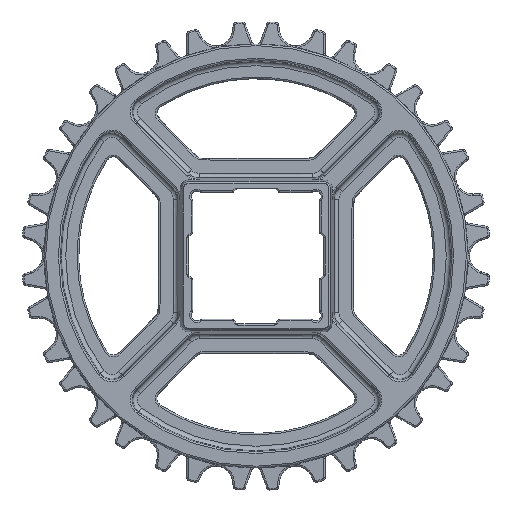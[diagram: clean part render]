
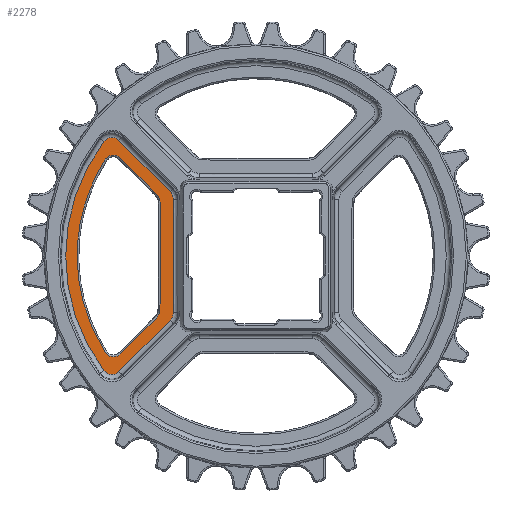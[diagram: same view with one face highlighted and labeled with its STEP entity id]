
A CAD part, top view. The second image highlights one B-rep face of the part: STEP entity #2278.
In plain terms, the highlighted planar face has unit normal (0, 0, 1).
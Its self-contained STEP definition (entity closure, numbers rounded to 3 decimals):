
#1999=PLANE('',#21089);
#2278=ADVANCED_FACE('',(#5031,#5032),#1999,.F.);
#4159=CIRCLE('',#21086,3.147);
#4160=CIRCLE('',#21087,60.497);
#4161=CIRCLE('',#21088,3.147);
#5031=FACE_BOUND('',#5144,.T.);
#5032=FACE_BOUND('',#5145,.T.);
#5144=EDGE_LOOP('',(#8125));
#5145=EDGE_LOOP('',(#8126,#8127,#8128,#8129,#8130,#8131,#8132,#8133));
#7557=B_SPLINE_CURVE_WITH_KNOTS('',3,(#34003,#34004,#34005,#34006,#34007,
#34008,#34009,#34010,#34011,#34012,#34013,#34014,#34015,#34016,#34017,#34018,
#34019,#34020,#34021,#34022,#34023,#34024,#34025,#34026,#34027,#34028,#34029,
#34030,#34031,#34032,#34033,#34034,#34035,#34036,#34037,#34038,#34039,#34040,
#34041,#34042,#34043,#34044,#34045,#34046,#34047,#34048,#34049,#34050),
 .UNSPECIFIED.,.T.,.F.,(2,2,2,2,2,2,2,2,2,2,2,1,1,1,2,2,2,1,1,1,2,2,2,1,
1,2,2,2,2,2),(-0.016,0.,0.125,0.25,
0.375,0.406,0.422,0.438,
0.453,0.469,0.477,0.484,
0.5,0.563,0.578,0.594,
0.609,0.625,0.75,0.813,0.828,
0.844,0.859,0.875,0.938,
0.953,0.969,0.984,1.,1.125),
 .UNSPECIFIED.);
#7558=B_SPLINE_CURVE_WITH_KNOTS('',3,(#34063,#34064,#34065,#34066),
 .UNSPECIFIED.,.F.,.F.,(4,4),(0.,1.),.UNSPECIFIED.);
#7559=B_SPLINE_CURVE_WITH_KNOTS('',3,(#34068,#34069,#34070,#34071,#34072,
#34073,#34074,#34075,#34076,#34077),.UNSPECIFIED.,.F.,.F.,(4,3,3,4),(0.,
0.084,0.418,1.),.UNSPECIFIED.);
#7560=B_SPLINE_CURVE_WITH_KNOTS('',3,(#34079,#34080,#34081,#34082),
 .UNSPECIFIED.,.F.,.F.,(4,4),(0.,1.),.UNSPECIFIED.);
#8125=ORIENTED_EDGE('',*,*,#16157,.T.);
#8126=ORIENTED_EDGE('',*,*,#16158,.T.);
#8127=ORIENTED_EDGE('',*,*,#16159,.T.);
#8128=ORIENTED_EDGE('',*,*,#16160,.T.);
#8129=ORIENTED_EDGE('',*,*,#16161,.T.);
#8130=ORIENTED_EDGE('',*,*,#16162,.T.);
#8131=ORIENTED_EDGE('',*,*,#16163,.T.);
#8132=ORIENTED_EDGE('',*,*,#16164,.T.);
#8133=ORIENTED_EDGE('',*,*,#16165,.T.);
#14311=VERTEX_POINT('',#34051);
#14312=VERTEX_POINT('',#34053);
#14313=VERTEX_POINT('',#34054);
#14314=VERTEX_POINT('',#34056);
#14315=VERTEX_POINT('',#34058);
#14316=VERTEX_POINT('',#34060);
#14317=VERTEX_POINT('',#34062);
#14318=VERTEX_POINT('',#34067);
#14319=VERTEX_POINT('',#34078);
#16157=EDGE_CURVE('',#14311,#14311,#7557,.T.);
#16158=EDGE_CURVE('',#14312,#14313,#18931,.T.);
#16159=EDGE_CURVE('',#14313,#14314,#4159,.T.);
#16160=EDGE_CURVE('',#14314,#14315,#4160,.T.);
#16161=EDGE_CURVE('',#14315,#14316,#4161,.T.);
#16162=EDGE_CURVE('',#14316,#14317,#18932,.T.);
#16163=EDGE_CURVE('',#14317,#14318,#7558,.T.);
#16164=EDGE_CURVE('',#14318,#14319,#7559,.T.);
#16165=EDGE_CURVE('',#14319,#14312,#7560,.T.);
#18931=LINE('',#34052,#19996);
#18932=LINE('',#34061,#19997);
#19996=VECTOR('',#23994,1.);
#19997=VECTOR('',#24001,1.);
#21086=AXIS2_PLACEMENT_3D('',#34055,#23995,#23996);
#21087=AXIS2_PLACEMENT_3D('',#34057,#23997,#23998);
#21088=AXIS2_PLACEMENT_3D('',#34059,#23999,#24000);
#21089=AXIS2_PLACEMENT_3D('',#34083,#24002,#24003);
#23994=DIRECTION('',(-0.707,0.707,0.));
#23995=DIRECTION('',(0.,0.,1.));
#23996=DIRECTION('',(-1.,0.,0.));
#23997=DIRECTION('',(0.,0.,1.));
#23998=DIRECTION('',(-1.,0.,0.));
#23999=DIRECTION('',(0.,0.,1.));
#24000=DIRECTION('',(-1.,0.,0.));
#24001=DIRECTION('',(0.707,0.707,0.));
#24002=DIRECTION('',(0.,0.,-1.));
#24003=DIRECTION('',(1.,0.,0.));
#34003=CARTESIAN_POINT('',(1604.189,515.903,3.5));
#34004=CARTESIAN_POINT('',(1600.398,521.814,3.5));
#34005=CARTESIAN_POINT('',(1597.919,527.61,3.5));
#34006=CARTESIAN_POINT('',(1594.961,539.557,3.5));
#34007=CARTESIAN_POINT('',(1594.456,545.855,3.5));
#34008=CARTESIAN_POINT('',(1595.492,558.17,3.5));
#34009=CARTESIAN_POINT('',(1597.036,564.286,3.5));
#34010=CARTESIAN_POINT('',(1600.126,571.377,3.5));
#34011=CARTESIAN_POINT('',(1600.803,572.773,3.5));
#34012=CARTESIAN_POINT('',(1601.91,574.833,3.5));
#34013=CARTESIAN_POINT('',(1602.293,575.513,3.5));
#34014=CARTESIAN_POINT('',(1603.087,576.855,3.5));
#34015=CARTESIAN_POINT('',(1603.455,577.557,3.5));
#34016=CARTESIAN_POINT('',(1604.408,578.772,3.5));
#34017=CARTESIAN_POINT('',(1605.131,579.185,3.5));
#34018=CARTESIAN_POINT('',(1606.658,579.39,3.5));
#34019=CARTESIAN_POINT('',(1607.459,579.185,3.5));
#34020=CARTESIAN_POINT('',(1608.396,578.489,3.5));
#34021=CARTESIAN_POINT('',(1608.654,578.195,3.5));
#34022=CARTESIAN_POINT('',(1609.202,577.647,3.5));
#34023=CARTESIAN_POINT('',(1610.025,576.825,3.5));
#34024=CARTESIAN_POINT('',(1613.041,573.809,3.5));
#34025=CARTESIAN_POINT('',(1616.331,570.519,3.5));
#34026=CARTESIAN_POINT('',(1619.072,567.777,3.5));
#34027=CARTESIAN_POINT('',(1620.169,566.68,3.5));
#34028=CARTESIAN_POINT('',(1620.751,566.117,3.5));
#34029=CARTESIAN_POINT('',(1621.208,564.658,3.5));
#34030=CARTESIAN_POINT('',(1621.117,563.863,3.5));
#34031=CARTESIAN_POINT('',(1621.117,562.326,3.5));
#34032=CARTESIAN_POINT('',(1621.117,555.41,3.5));
#34033=CARTESIAN_POINT('',(1621.117,545.419,3.5));
#34034=CARTESIAN_POINT('',(1621.117,535.429,3.5));
#34035=CARTESIAN_POINT('',(1621.117,531.587,3.5));
#34036=CARTESIAN_POINT('',(1621.117,530.05,3.5));
#34037=CARTESIAN_POINT('',(1621.119,529.253,3.5));
#34038=CARTESIAN_POINT('',(1620.402,527.916,3.5));
#34039=CARTESIAN_POINT('',(1619.779,527.422,3.5));
#34040=CARTESIAN_POINT('',(1618.694,526.338,3.5));
#34041=CARTESIAN_POINT('',(1615.982,523.626,3.5));
#34042=CARTESIAN_POINT('',(1612.728,520.371,3.5));
#34043=CARTESIAN_POINT('',(1610.016,517.659,3.5));
#34044=CARTESIAN_POINT('',(1608.931,516.574,3.5));
#34045=CARTESIAN_POINT('',(1608.442,515.953,3.5));
#34046=CARTESIAN_POINT('',(1607.126,515.199,3.5));
#34047=CARTESIAN_POINT('',(1606.325,515.083,3.5));
#34048=CARTESIAN_POINT('',(1604.835,515.447,3.5));
#34049=CARTESIAN_POINT('',(1604.189,515.903,3.5));
#34050=CARTESIAN_POINT('',(1600.398,521.814,3.5));
#34051=CARTESIAN_POINT('',(1603.768,516.559,3.5));
#34052=CARTESIAN_POINT('',(1642.535,549.471,3.5));
#34053=CARTESIAN_POINT('',(1624.325,567.682,3.5));
#34054=CARTESIAN_POINT('',(1608.036,583.971,3.5));
#34055=CARTESIAN_POINT('',(1605.811,581.746,3.5));
#34056=CARTESIAN_POINT('',(1603.297,583.639,3.5));
#34057=CARTESIAN_POINT('',(1651.624,547.246,3.5));
#34058=CARTESIAN_POINT('',(1603.297,510.854,3.5));
#34059=CARTESIAN_POINT('',(1605.811,512.747,3.5));
#34060=CARTESIAN_POINT('',(1608.036,510.522,3.5));
#34061=CARTESIAN_POINT('',(1608.036,510.522,3.5));
#34062=CARTESIAN_POINT('',(1624.325,526.811,3.5));
#34063=CARTESIAN_POINT('',(1624.325,526.811,3.5));
#34064=CARTESIAN_POINT('',(1624.98,527.466,3.5));
#34065=CARTESIAN_POINT('',(1625.354,528.36,3.5));
#34066=CARTESIAN_POINT('',(1625.354,529.287,3.5));
#34067=CARTESIAN_POINT('',(1625.354,529.287,3.5));
#34068=CARTESIAN_POINT('',(1625.354,529.287,3.5));
#34069=CARTESIAN_POINT('',(1625.354,530.287,3.5));
#34070=CARTESIAN_POINT('',(1625.354,531.287,3.5));
#34071=CARTESIAN_POINT('',(1625.354,532.287,3.5));
#34072=CARTESIAN_POINT('',(1625.354,536.287,3.5));
#34073=CARTESIAN_POINT('',(1625.354,540.287,3.5));
#34074=CARTESIAN_POINT('',(1625.354,544.287,3.5));
#34075=CARTESIAN_POINT('',(1625.354,551.26,3.5));
#34076=CARTESIAN_POINT('',(1625.354,558.233,3.5));
#34077=CARTESIAN_POINT('',(1625.354,565.206,3.5));
#34078=CARTESIAN_POINT('',(1625.354,565.206,3.5));
#34079=CARTESIAN_POINT('',(1625.354,565.206,3.5));
#34080=CARTESIAN_POINT('',(1625.354,566.133,3.5));
#34081=CARTESIAN_POINT('',(1624.98,567.026,3.5));
#34082=CARTESIAN_POINT('',(1624.325,567.682,3.5));
#34083=CARTESIAN_POINT('',(1605.811,512.747,3.5));
